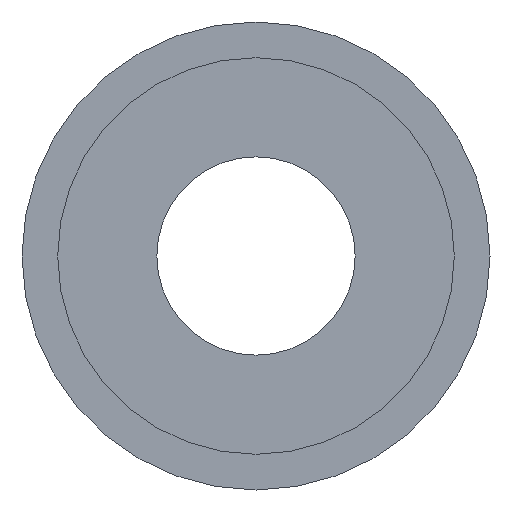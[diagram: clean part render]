
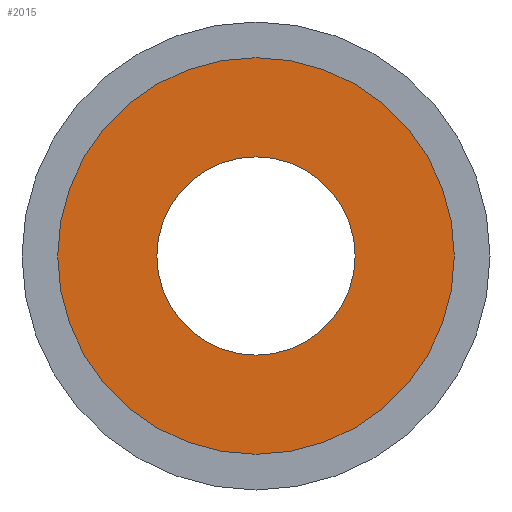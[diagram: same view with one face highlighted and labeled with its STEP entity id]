
A CAD part, front view. The second image highlights one B-rep face of the part: STEP entity #2015.
In plain terms, the highlighted planar face has unit normal (0, -1, 0).
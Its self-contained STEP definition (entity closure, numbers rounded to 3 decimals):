
#72 = AXIS2_PLACEMENT_3D ( 'NONE', #1021, #142, #2365 ) ;
#77 = CARTESIAN_POINT ( 'NONE',  ( 0., -14., 25. ) ) ;
#111 = DIRECTION ( 'NONE',  ( 0., -1., 0. ) ) ;
#117 = DIRECTION ( 'NONE',  ( 0., 0., -1. ) ) ;
#142 = DIRECTION ( 'NONE',  ( 0., -1., 0. ) ) ;
#200 = CARTESIAN_POINT ( 'NONE',  ( 0., -14., 0. ) ) ;
#255 = CIRCLE ( 'NONE', #676, 12.5 ) ;
#317 = DIRECTION ( 'NONE',  ( 0., -1., 0. ) ) ;
#351 = DIRECTION ( 'NONE',  ( 0., 1., 0. ) ) ;
#360 = PLANE ( 'NONE',  #2496 ) ;
#574 = DIRECTION ( 'NONE',  ( 0., 0., 1. ) ) ;
#672 = EDGE_LOOP ( 'NONE', ( #2559, #1701 ) ) ;
#676 = AXIS2_PLACEMENT_3D ( 'NONE', #200, #1085, #2411 ) ;
#748 = FACE_BOUND ( 'NONE', #672, .T. ) ;
#806 = CARTESIAN_POINT ( 'NONE',  ( 0., -14., 12.5 ) ) ;
#837 = EDGE_LOOP ( 'NONE', ( #2006, #2852 ) ) ;
#860 = EDGE_CURVE ( 'NONE', #1968, #1698, #2859, .T. ) ;
#950 = CARTESIAN_POINT ( 'NONE',  ( 0., -14., 12.5 ) ) ;
#1021 = CARTESIAN_POINT ( 'NONE',  ( 0., -14., 0. ) ) ;
#1085 = DIRECTION ( 'NONE',  ( 0., -1., 0. ) ) ;
#1170 = CIRCLE ( 'NONE', #2257, 25. ) ;
#1217 = CARTESIAN_POINT ( 'NONE',  ( 0., -14., 0. ) ) ;
#1237 = FACE_OUTER_BOUND ( 'NONE', #837, .T. ) ;
#1698 = VERTEX_POINT ( 'NONE', #2002 ) ;
#1701 = ORIENTED_EDGE ( 'NONE', *, *, #2476, .F. ) ;
#1756 = VERTEX_POINT ( 'NONE', #950 ) ;
#1831 = CARTESIAN_POINT ( 'NONE',  ( 0., -14., -12.5 ) ) ;
#1968 = VERTEX_POINT ( 'NONE', #77 ) ;
#2002 = CARTESIAN_POINT ( 'NONE',  ( 0., -14., -25. ) ) ;
#2006 = ORIENTED_EDGE ( 'NONE', *, *, #2282, .T. ) ;
#2015 = ADVANCED_FACE ( 'NONE', ( #748, #1237 ), #360, .F. ) ;
#2039 = EDGE_CURVE ( 'NONE', #2198, #1756, #2075, .T. ) ;
#2075 = CIRCLE ( 'NONE', #72, 12.5 ) ;
#2198 = VERTEX_POINT ( 'NONE', #1831 ) ;
#2257 = AXIS2_PLACEMENT_3D ( 'NONE', #2786, #317, #117 ) ;
#2282 = EDGE_CURVE ( 'NONE', #1698, #1968, #1170, .T. ) ;
#2365 = DIRECTION ( 'NONE',  ( 0., 0., -1. ) ) ;
#2411 = DIRECTION ( 'NONE',  ( 0., 0., -1. ) ) ;
#2476 = EDGE_CURVE ( 'NONE', #1756, #2198, #255, .T. ) ;
#2496 = AXIS2_PLACEMENT_3D ( 'NONE', #806, #351, #574 ) ;
#2559 = ORIENTED_EDGE ( 'NONE', *, *, #2039, .F. ) ;
#2781 = DIRECTION ( 'NONE',  ( 0., 0., -1. ) ) ;
#2786 = CARTESIAN_POINT ( 'NONE',  ( 0., -14., 0. ) ) ;
#2813 = AXIS2_PLACEMENT_3D ( 'NONE', #1217, #111, #2781 ) ;
#2852 = ORIENTED_EDGE ( 'NONE', *, *, #860, .T. ) ;
#2859 = CIRCLE ( 'NONE', #2813, 25. ) ;
